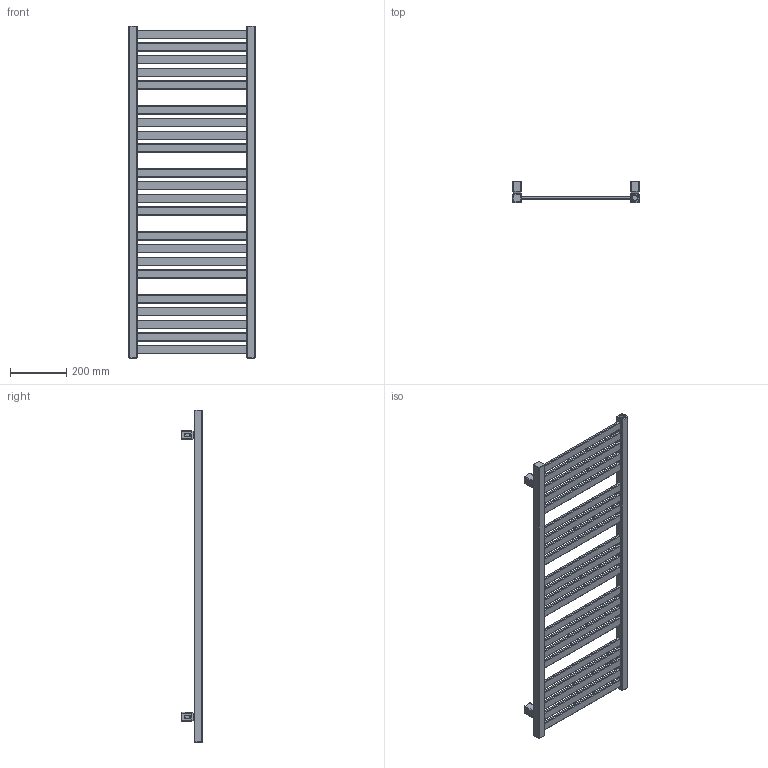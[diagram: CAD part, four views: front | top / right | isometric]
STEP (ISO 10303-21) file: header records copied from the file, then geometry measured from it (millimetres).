
FILE_DESCRIPTION((''),'2;1');
FILE_NAME('Z:\R\G\P\RGPH09 - Grzejnik Marlin\Work\Inventor\Grzejnik Marlin v3.0\Marketing\AutoCad 3D\MR-1185-450-SX_MKT.stp','2012-07-25T08:22:30',('PioRo'),(''),'Autodesk Inventor 2012','Autodesk Inventor 2012','');
FILE_SCHEMA(('AUTOMOTIVE_DESIGN { 1 0 10303 214 1 1 1 1 }'));
Length unit declared in the file: millimetre
Products named in the file (3): MR-1185-450-SX_MKT; MKT42-00-A v0.2
Assembly tree (5 placements, depth 2):
  MR-1185-450-SX_MKT
    MR-1185-450-SX_MKT
    MKT42-00-A v0.2  x4
Bounding box: 453.98 x 74.5 x 1185 mm (x, y, z)
Volume: 4821443.7 mm3; surface area: 961530.6 mm2
Topology: 5 solids, 5 shells, 513 faces, 1315 edges, 841 vertices
Faces by surface type: cylinder 223, plane 215, bspline 60, torus 11, cone 4
Full cylindrical faces by diameter (mm): 4.134 x4, 10 x4, 12 x4, 18.631 x3
Entity records: 11229 total; most frequent: CARTESIAN_POINT 3039, DIRECTION 1728, ORIENTED_EDGE 1646, EDGE_CURVE 823, AXIS2_PLACEMENT_3D 624, VERTEX_POINT 543, VECTOR 480, LINE 480
